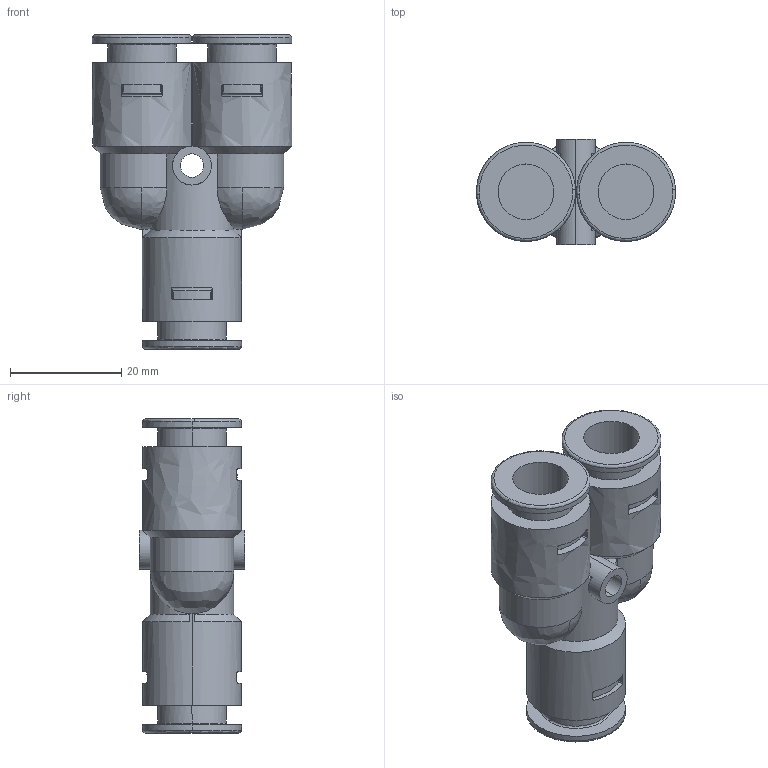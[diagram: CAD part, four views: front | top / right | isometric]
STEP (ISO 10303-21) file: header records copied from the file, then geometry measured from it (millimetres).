
FILE_DESCRIPTION (( 'STEP AP214' ), '1' );
FILE_NAME ('APY10.STEP', '2019-12-05T06:50:15', ( '微软用户' ), ( '微软中国' ), 'SwSTEP 2.0', 'SolidWorks 2016', '' );
FILE_SCHEMA (( 'AUTOMOTIVE_DESIGN' ));
Length unit declared in the file: millimetre
Products named in the file (1): APY10
Bounding box: 35.8 x 19 x 56.5 mm (x, y, z)
Volume: 13690.9 mm3; surface area: 9012.1 mm2
Topology: 1 solids, 1 shells, 171 faces, 473 edges, 311 vertices
Faces by surface type: cylinder 79, plane 59, bspline 18, cone 15
Entity records: 7223 total; most frequent: CARTESIAN_POINT 3050, ORIENTED_EDGE 930, DIRECTION 794, EDGE_CURVE 465, AXIS2_PLACEMENT_3D 314, VERTEX_POINT 311, EDGE_LOOP 188, ADVANCED_FACE 171
